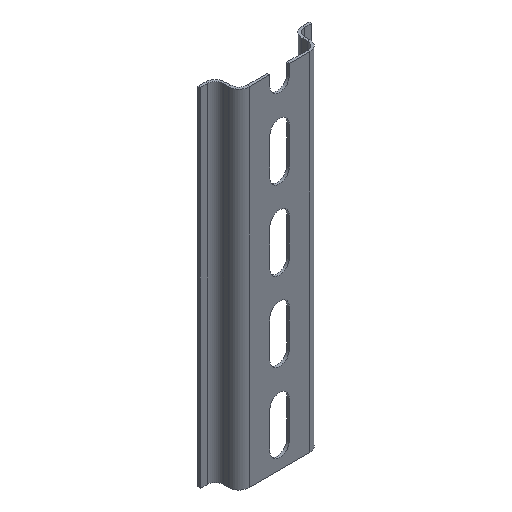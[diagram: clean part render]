
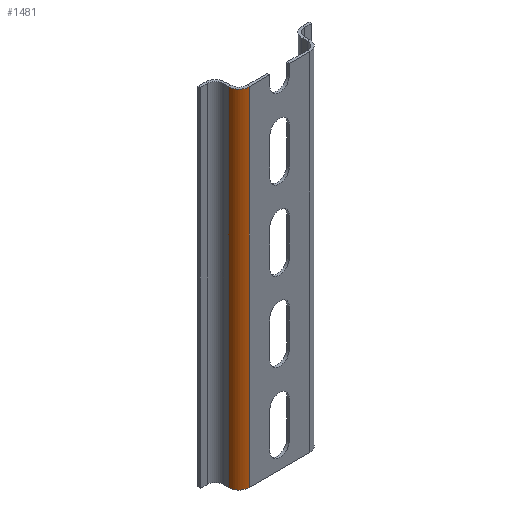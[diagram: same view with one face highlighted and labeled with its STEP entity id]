
A CAD part, isometric view. The second image highlights one B-rep face of the part: STEP entity #1481.
In plain terms, the highlighted cylindrical face has radius 3.3 mm (diameter 6.6 mm), a partial arc.
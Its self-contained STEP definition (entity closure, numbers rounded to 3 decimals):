
#156 = EDGE_LOOP ( 'NONE', ( #1395, #736, #234, #833 ) ) ;
#211 = AXIS2_PLACEMENT_3D ( 'NONE', #1310, #910, #1059 ) ;
#222 = CARTESIAN_POINT ( 'NONE',  ( -9.6, -0.8, 110. ) ) ;
#234 = ORIENTED_EDGE ( 'NONE', *, *, #1334, .T. ) ;
#282 = CYLINDRICAL_SURFACE ( 'NONE', #1612, 3.3 ) ;
#286 = LINE ( 'NONE', #798, #530 ) ;
#290 = EDGE_CURVE ( 'NONE', #515, #847, #1383, .T. ) ;
#423 = AXIS2_PLACEMENT_3D ( 'NONE', #1550, #712, #1117 ) ;
#433 = CARTESIAN_POINT ( 'NONE',  ( -9.6, -0.8, 0. ) ) ;
#446 = DIRECTION ( 'NONE',  ( 0., 0., -1. ) ) ;
#513 = DIRECTION ( 'NONE',  ( 0., 0., -1. ) ) ;
#515 = VERTEX_POINT ( 'NONE', #433 ) ;
#530 = VECTOR ( 'NONE', #513, 1000. ) ;
#712 = DIRECTION ( 'NONE',  ( 0., 0., -1. ) ) ;
#736 = ORIENTED_EDGE ( 'NONE', *, *, #1135, .F. ) ;
#740 = DIRECTION ( 'NONE',  ( 0., 0., -1. ) ) ;
#746 = CARTESIAN_POINT ( 'NONE',  ( -12.9, 2.5, 110. ) ) ;
#757 = CARTESIAN_POINT ( 'NONE',  ( -12.9, 2.5, 0. ) ) ;
#798 = CARTESIAN_POINT ( 'NONE',  ( -9.6, -0.8, 110. ) ) ;
#833 = ORIENTED_EDGE ( 'NONE', *, *, #1490, .T. ) ;
#847 = VERTEX_POINT ( 'NONE', #757 ) ;
#871 = VERTEX_POINT ( 'NONE', #222 ) ;
#889 = FACE_OUTER_BOUND ( 'NONE', #156, .T. ) ;
#910 = DIRECTION ( 'NONE',  ( 0., 0., -1. ) ) ;
#1009 = CARTESIAN_POINT ( 'NONE',  ( -9.6, 2.5, 110. ) ) ;
#1045 = LINE ( 'NONE', #746, #1128 ) ;
#1059 = DIRECTION ( 'NONE',  ( 1., 0., 0. ) ) ;
#1117 = DIRECTION ( 'NONE',  ( 1., 0., 0. ) ) ;
#1128 = VECTOR ( 'NONE', #446, 1000. ) ;
#1135 = EDGE_CURVE ( 'NONE', #871, #515, #286, .T. ) ;
#1266 = VERTEX_POINT ( 'NONE', #1694 ) ;
#1310 = CARTESIAN_POINT ( 'NONE',  ( -9.6, 2.5, 0. ) ) ;
#1334 = EDGE_CURVE ( 'NONE', #871, #1266, #1515, .T. ) ;
#1383 = CIRCLE ( 'NONE', #211, 3.3 ) ;
#1395 = ORIENTED_EDGE ( 'NONE', *, *, #290, .F. ) ;
#1445 = DIRECTION ( 'NONE',  ( -1., 0., 0. ) ) ;
#1481 = ADVANCED_FACE ( 'NONE', ( #889 ), #282, .T. ) ;
#1490 = EDGE_CURVE ( 'NONE', #1266, #847, #1045, .T. ) ;
#1515 = CIRCLE ( 'NONE', #423, 3.3 ) ;
#1550 = CARTESIAN_POINT ( 'NONE',  ( -9.6, 2.5, 110. ) ) ;
#1612 = AXIS2_PLACEMENT_3D ( 'NONE', #1009, #740, #1445 ) ;
#1694 = CARTESIAN_POINT ( 'NONE',  ( -12.9, 2.5, 110. ) ) ;
